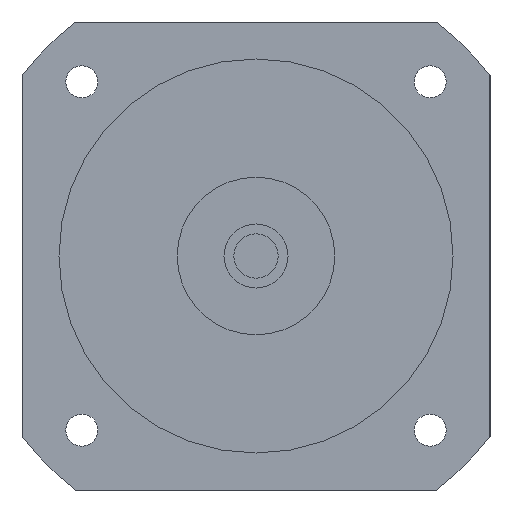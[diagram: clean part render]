
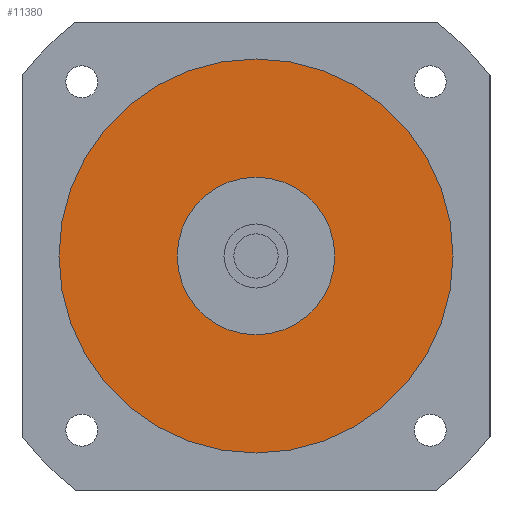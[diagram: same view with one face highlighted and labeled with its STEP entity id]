
A CAD part, left-side view. The second image highlights one B-rep face of the part: STEP entity #11380.
In plain terms, the highlighted planar face has unit normal (-1, 0, 0) as drawn and (0, 0, -1) by its records, which use the part's own axes.
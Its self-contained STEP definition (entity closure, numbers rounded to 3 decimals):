
#10720=CARTESIAN_POINT('',(-16.,0.,-32.5));
#10730=VERTEX_POINT('',#10720);
#10780=CARTESIAN_POINT('',(0.,0.,
-32.5));
#10790=DIRECTION('',(0.,0.,1.));
#10800=DIRECTION('',(0.,1.,0.));
#10810=AXIS2_PLACEMENT_3D('',#10780,#10790,#10800);
#10820=CIRCLE('',#10810,16.);
#10830=CARTESIAN_POINT('',(16.,0.,-32.5));
#10840=VERTEX_POINT('',#10830);
#10850=EDGE_CURVE('',#10730,#10840,#10820,.T.);
#11050=CARTESIAN_POINT('',(0.,0.,
-32.5));
#11060=DIRECTION('',(0.,0.,1.));
#11070=DIRECTION('',(-1.,0.,0.));
#11080=AXIS2_PLACEMENT_3D('',#11050,#11060,#11070);
#11090=PLANE('',#11080);
#11100=CARTESIAN_POINT('',(0.,0.,
-32.5));
#11110=DIRECTION('',(0.,0.,1.));
#11120=DIRECTION('',(0.,1.,0.));
#11130=AXIS2_PLACEMENT_3D('',#11100,#11110,#11120);
#11140=CIRCLE('',#11130,40.);
#11150=CARTESIAN_POINT('',(0.,40.,-32.5));
#11160=VERTEX_POINT('',#11150);
#11170=CARTESIAN_POINT('',(-40.,0.,-32.5));
#11180=VERTEX_POINT('',#11170);
#11190=EDGE_CURVE('',#11160,#11180,#11140,.T.);
#11200=ORIENTED_EDGE('',*,*,#11190,.F.);
#11210=CARTESIAN_POINT('',(40.,0.,-32.5));
#11220=VERTEX_POINT('',#11210);
#11230=EDGE_CURVE('',#11180,#11220,#11140,.T.);
#11240=ORIENTED_EDGE('',*,*,#11230,.F.);
#11250=EDGE_CURVE('',#11220,#11160,#11140,.T.);
#11260=ORIENTED_EDGE('',*,*,#11250,.F.);
#11270=EDGE_LOOP('',(#11260,#11240,#11200));
#11280=FACE_OUTER_BOUND('',#11270,.T.);
#11290=ORIENTED_EDGE('',*,*,#10850,.T.);
#11300=CARTESIAN_POINT('',(0.,16.,-32.5));
#11310=VERTEX_POINT('',#11300);
#11320=EDGE_CURVE('',#11310,#10730,#10820,.T.);
#11330=ORIENTED_EDGE('',*,*,#11320,.T.);
#11340=EDGE_CURVE('',#10840,#11310,#10820,.T.);
#11350=ORIENTED_EDGE('',*,*,#11340,.T.);
#11360=EDGE_LOOP('',(#11350,#11330,#11290));
#11370=FACE_BOUND('',#11360,.T.);
#11380=ADVANCED_FACE('',(#11280,#11370),#11090,.F.);
